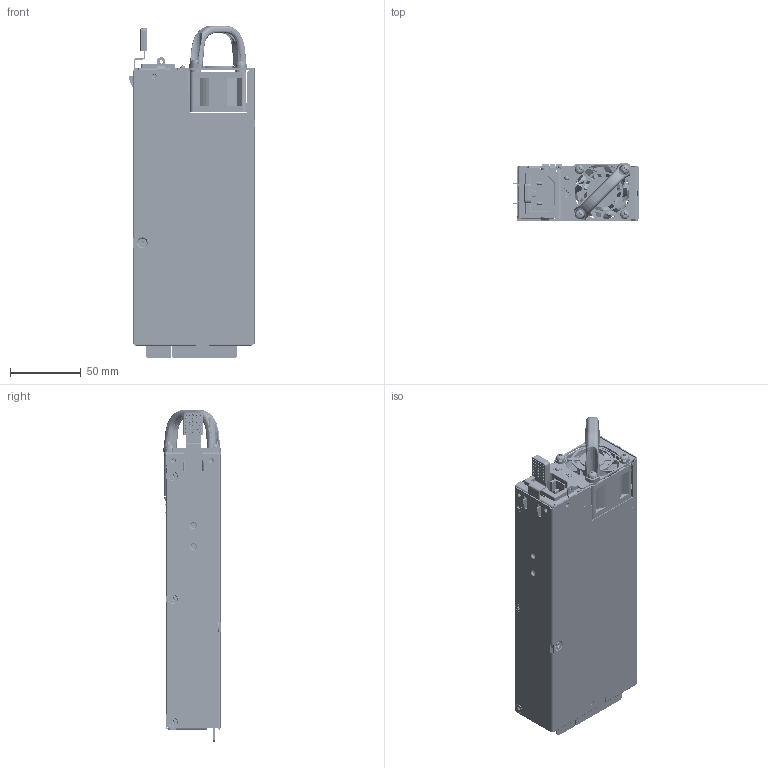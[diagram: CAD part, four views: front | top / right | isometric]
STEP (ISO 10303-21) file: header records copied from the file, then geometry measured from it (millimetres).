
FILE_DESCRIPTION((''),'2;1');
FILE_NAME('PSU_COMPLETE_DS1600SPE-3-R_ASM','2014-01-30T',('danbryansayam'),(''),'PRO/ENGINEER BY PARAMETRIC TECHNOLOGY CORPORATION, 2013230','PRO/ENGINEER BY PARAMETRIC TECHNOLOGY CORPORATION, 2013230','');
FILE_SCHEMA(('CONFIG_CONTROL_DESIGN'));
Products named in the file (49): BASE_DS1600_REVRSBLEFAN_OPT3; LATCH_DS1100PED; STAND-OFF_M3_4PT4-HOLE; 393-66200415; STANDOFF_M3X4_WO-COLLAR; BASE_DS1600SPE-3_REVESIBLE_ASM; 18366_OVER_MOLD_LATCH_DS1200-3; LED_HOLDER_3MM_CLED-1H; INSUL-PBT_P-WNDW-1; INSUL_FOAM_C; 761-002954-0002-AA_ASM; PCB_MAIN_DS1600SPE-3; PCB_MAIN_DS1600SPE-3_ASM; C16; INLET-SHIELD; CC-120070150060-0750-01-MR; 40302207740A; RING_TERM_40366108120_IN_WIRE; AC-INLET-WIRES; ASSY_AC-INLET_ASM; FAN_BRACKET_DS1600_OPT2; GROMMET_FAN-HALF; 5220006-0500_PANDE_ANY; FAN_FFB0412UHN-BC2E_40X40X28; 13866007940; PLPF_40566000920_A01; MATKIT_CI01_8WAY_ASM; LED-L-3VGYW-MR_AF1; LED-HOOK; ASSY_LED_DS1600SPE_AF0_ASM; INSUL_FOAM_A; ASSY-FAN_DS1600SPE_ASM; DS1200-3_HANDLE_DS1200-3-WAR; 39170201781-M4X12; FANWIRE_DS1600SPE-R; LED-L-3VGYW-MR_AF2; LED-WIRE_DS1600SPE; ASSY_LED_DS1600SPE_AF1_ASM; ASSY-FAN_DS1600SPE-R_ASM; 764-004304-0002-AA_ASM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
Assembly tree (83 placements, depth 5):
  PSU_COMPLETE_DS1600SPE-3-R_ASM
    761-002954-0002-AA_ASM
      BASE_DS1600SPE-3_REVESIBLE_ASM
        BASE_DS1600_REVRSBLEFAN_OPT3
        LATCH_DS1100PED
        STAND-OFF_M3_4PT4-HOLE  x2
        393-66200415
        STANDOFF_M3X4_WO-COLLAR
      18366_OVER_MOLD_LATCH_DS1200-3
      LED_HOLDER_3MM_CLED-1H
      INSUL-PBT_P-WNDW-1  x2
      INSUL_FOAM_C
    PCB_MAIN_DS1600SPE-3_ASM
      PCB_MAIN_DS1600SPE-3
    ASSY_AC-INLET_ASM
      C16
      INLET-SHIELD
      CC-120070150060-0750-01-MR  x2
      40302207740A  x2
      RING_TERM_40366108120_IN_WIRE
      AC-INLET-WIRES
    764-004304-0002-AA_ASM
      FAN_BRACKET_DS1600_OPT2
      GROMMET_FAN-HALF  x2
      5220006-0500_PANDE_ANY  x2
      ASSY-FAN_DS1600SPE_ASM
        FAN_FFB0412UHN-BC2E_40X40X28
        MATKIT_CI01_8WAY_ASM
          13866007940
          PLPF_40566000920_A01  x7
        ASSY_LED_DS1600SPE_AF0_ASM
          LED-L-3VGYW-MR_AF1
          LED-HOOK  x3
        INSUL_FOAM_A
      DS1200-3_HANDLE_DS1200-3-WAR
      39170201781-M4X12  x4
      ASSY-FAN_DS1600SPE-R_ASM
        FAN_FFB0412UHN-BC2E_40X40X28
        MATKIT_CI01_8WAY_ASM
          13866007940
          PLPF_40566000920_A01  x7
        FANWIRE_DS1600SPE-R
        ASSY_LED_DS1600SPE_AF1_ASM
          LED-L-3VGYW-MR_AF2
          LED-HOOK  x3
          LED-WIRE_DS1600SPE
        INSUL_FOAM_A
    391-SCR_M3-5X6_PL_SP  x3
    SCR-CSM3X7
    SCR-CSM3X5  x10
    761-002955-0002-AA_ASM
      COVER_DS1600_REVRSBLEFAN_ASM
        COVER_DS1600_REVRSBLEFAN
        BRKT_CABLE_RET_DS1200-3
      814KV
    INSUL_FOAM_C
Bounding box: 89.8 x 41.38 x 235.3 mm (x, y, z)
Volume: 118636.9 mm3; surface area: 198280.6 mm2
Topology: 78 solids, 78 shells, 7456 faces, 19643 edges, 12327 vertices
Faces by surface type: plane 4586, cylinder 1857, bspline 425, cone 292, torus 205, extrusion 65, sphere 26
Entity records: 175262 total; most frequent: CARTESIAN_POINT 34967, DIRECTION 22815, ORIENTED_EDGE 22742, EDGE_CURVE 11371, PRESENTATION_STYLE_ASSIGNMENT 9281, STYLED_ITEM 9262, CURVE_STYLE 8883, AXIS2_PLACEMENT_3D 7707
